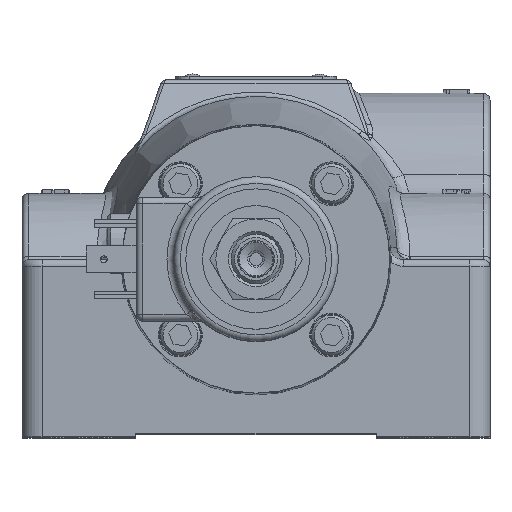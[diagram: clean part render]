
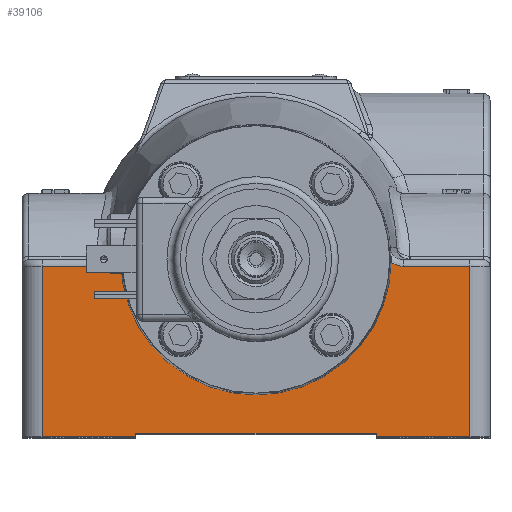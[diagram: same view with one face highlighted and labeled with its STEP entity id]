
A CAD part, top view. The second image highlights one B-rep face of the part: STEP entity #39106.
In plain terms, the highlighted planar face has unit normal (0, 0, 1).
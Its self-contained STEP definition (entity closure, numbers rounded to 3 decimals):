
#1015=B_SPLINE_CURVE_WITH_KNOTS('',3,(#63922,#63923,#63924,#63925),
 .UNSPECIFIED.,.F.,.F.,(4,4),(0.356,0.703),
 .UNSPECIFIED.);
#1016=B_SPLINE_CURVE_WITH_KNOTS('',3,(#63929,#63930,#63931,#63932,#63933),
 .UNSPECIFIED.,.F.,.F.,(4,1,4),(0.,0.291,0.347),
 .UNSPECIFIED.);
#4079=FACE_OUTER_BOUND('',#6545,.T.);
#6545=EDGE_LOOP('',(#28090,#28091,#28092,#28093,#28094,#28095,#28096,#28097,
#28098,#28099,#28100,#28101));
#8945=CIRCLE('',#42269,3.178);
#11371=LINE('',#63916,#13528);
#11372=LINE('',#63918,#13529);
#11373=LINE('',#63920,#13530);
#11374=LINE('',#63935,#13531);
#11375=LINE('',#63937,#13532);
#11376=LINE('',#63939,#13533);
#11377=LINE('',#63941,#13534);
#11378=LINE('',#63943,#13535);
#11379=LINE('',#63944,#13536);
#13528=VECTOR('',#49199,1.);
#13529=VECTOR('',#49200,1.);
#13530=VECTOR('',#49201,1.);
#13531=VECTOR('',#49204,1.);
#13532=VECTOR('',#49205,1.);
#13533=VECTOR('',#49206,1.);
#13534=VECTOR('',#49207,1.);
#13535=VECTOR('',#49208,1.);
#13536=VECTOR('',#49209,1.);
#16029=VERTEX_POINT('',#63914);
#16030=VERTEX_POINT('',#63915);
#16031=VERTEX_POINT('',#63917);
#16032=VERTEX_POINT('',#63919);
#16033=VERTEX_POINT('',#63921);
#16034=VERTEX_POINT('',#63926);
#16035=VERTEX_POINT('',#63928);
#16036=VERTEX_POINT('',#63934);
#16037=VERTEX_POINT('',#63936);
#16038=VERTEX_POINT('',#63938);
#16039=VERTEX_POINT('',#63940);
#16040=VERTEX_POINT('',#63942);
#20373=EDGE_CURVE('',#16029,#16030,#11371,.T.);
#20374=EDGE_CURVE('',#16031,#16030,#11372,.T.);
#20375=EDGE_CURVE('',#16032,#16031,#11373,.T.);
#20376=EDGE_CURVE('',#16033,#16032,#1015,.T.);
#20377=EDGE_CURVE('',#16034,#16033,#8945,.T.);
#20378=EDGE_CURVE('',#16035,#16034,#1016,.T.);
#20379=EDGE_CURVE('',#16036,#16035,#11374,.T.);
#20380=EDGE_CURVE('',#16037,#16036,#11375,.T.);
#20381=EDGE_CURVE('',#16037,#16038,#11376,.T.);
#20382=EDGE_CURVE('',#16038,#16039,#11377,.T.);
#20383=EDGE_CURVE('',#16039,#16040,#11378,.T.);
#20384=EDGE_CURVE('',#16040,#16029,#11379,.T.);
#28090=ORIENTED_EDGE('',*,*,#20373,.T.);
#28091=ORIENTED_EDGE('',*,*,#20374,.F.);
#28092=ORIENTED_EDGE('',*,*,#20375,.F.);
#28093=ORIENTED_EDGE('',*,*,#20376,.F.);
#28094=ORIENTED_EDGE('',*,*,#20377,.F.);
#28095=ORIENTED_EDGE('',*,*,#20378,.F.);
#28096=ORIENTED_EDGE('',*,*,#20379,.F.);
#28097=ORIENTED_EDGE('',*,*,#20380,.F.);
#28098=ORIENTED_EDGE('',*,*,#20381,.T.);
#28099=ORIENTED_EDGE('',*,*,#20382,.T.);
#28100=ORIENTED_EDGE('',*,*,#20383,.T.);
#28101=ORIENTED_EDGE('',*,*,#20384,.T.);
#35668=PLANE('',#42268);
#39106=ADVANCED_FACE('',(#4079),#35668,.T.);
#42268=AXIS2_PLACEMENT_3D('',#63913,#49197,#49198);
#42269=AXIS2_PLACEMENT_3D('',#63927,#49202,#49203);
#49197=DIRECTION('center_axis',(0.,0.,1.));
#49198=DIRECTION('ref_axis',(1.,0.,0.));
#49199=DIRECTION('',(1.,0.,0.));
#49200=DIRECTION('',(0.,-1.,0.));
#49201=DIRECTION('',(1.,0.,0.));
#49202=DIRECTION('center_axis',(0.,0.,1.));
#49203=DIRECTION('ref_axis',(-1.,0.,0.));
#49204=DIRECTION('',(1.,0.,0.));
#49205=DIRECTION('',(0.,1.,0.));
#49206=DIRECTION('',(1.,0.,0.));
#49207=DIRECTION('',(0.,1.,0.));
#49208=DIRECTION('',(1.,0.,0.));
#49209=DIRECTION('',(0.,-1.,0.));
#63913=CARTESIAN_POINT('Origin',(0.,-4.286,8.652));
#63914=CARTESIAN_POINT('',(2.858,-4.207,8.652));
#63915=CARTESIAN_POINT('',(5.08,-4.207,8.652));
#63916=CARTESIAN_POINT('',(0.,-4.207,8.652));
#63917=CARTESIAN_POINT('',(5.08,-0.159,8.652));
#63918=CARTESIAN_POINT('',(5.08,-3.215,8.652));
#63919=CARTESIAN_POINT('',(3.497,-0.159,8.652));
#63920=CARTESIAN_POINT('',(0.,-0.159,8.652));
#63921=CARTESIAN_POINT('',(3.177,-0.037,8.652));
#63922=CARTESIAN_POINT('Ctrl Pts',(3.178,-0.037,
8.652));
#63923=CARTESIAN_POINT('Ctrl Pts',(3.265,-0.114,
8.652));
#63924=CARTESIAN_POINT('Ctrl Pts',(3.381,-0.159,
8.652));
#63925=CARTESIAN_POINT('Ctrl Pts',(3.497,-0.159,
8.652));
#63926=CARTESIAN_POINT('',(-3.177,-0.037,8.652));
#63927=CARTESIAN_POINT('Origin',(0.,0.,8.652));
#63928=CARTESIAN_POINT('',(-3.497,-0.159,8.652));
#63929=CARTESIAN_POINT('Ctrl Pts',(-3.497,-0.159,
8.652));
#63930=CARTESIAN_POINT('Ctrl Pts',(-3.4,-0.159,
8.652));
#63931=CARTESIAN_POINT('Ctrl Pts',(-3.283,-0.122,
8.652));
#63932=CARTESIAN_POINT('Ctrl Pts',(-3.192,-0.05,
8.652));
#63933=CARTESIAN_POINT('Ctrl Pts',(-3.178,-0.037,
8.652));
#63934=CARTESIAN_POINT('',(-5.08,-0.159,8.652));
#63935=CARTESIAN_POINT('',(0.,-0.159,8.652));
#63936=CARTESIAN_POINT('',(-5.08,-4.207,8.652));
#63937=CARTESIAN_POINT('',(-5.08,-3.215,8.652));
#63938=CARTESIAN_POINT('',(-2.858,-4.207,8.652));
#63939=CARTESIAN_POINT('',(0.,-4.207,8.652));
#63940=CARTESIAN_POINT('',(-2.858,-4.128,8.652));
#63941=CARTESIAN_POINT('',(-2.858,-4.247,8.652));
#63942=CARTESIAN_POINT('',(2.858,-4.128,8.652));
#63943=CARTESIAN_POINT('',(0.,-4.128,8.652));
#63944=CARTESIAN_POINT('',(2.858,-4.247,8.652));
